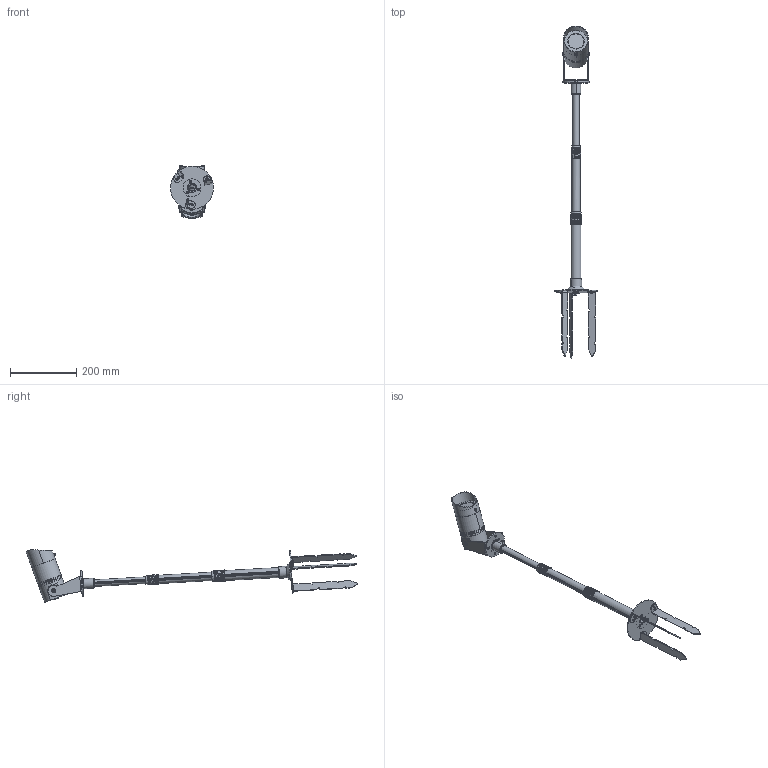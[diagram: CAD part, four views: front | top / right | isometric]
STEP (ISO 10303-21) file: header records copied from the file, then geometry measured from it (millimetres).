
FILE_DESCRIPTION((''),'2;1');
FILE_NAME('3AE__ASM_1_ASM','2025-08-01T',('C028'),(''),'CREO PARAMETRIC BY PTC INC, 2014190','CREO PARAMETRIC BY PTC INC, 2014190','');
FILE_SCHEMA(('CONFIG_CONTROL_DESIGN'));
Products named in the file (50): B3AB_80__O______L_10_15_1; B3AB_80_________L_9_1_1; 1_9_1_1; ADMI116CD2A7R55F_1_9_1_1; ADMI116CD2A7R55F_20_9_1_1; ADMI116CD2A7R55F_ASM_9_ASM_1_AS_ASM; B67__ASM_10_ASM_1_ASM_1_ASM; B3AB_80__O_________B___N_9_1_1; B3AB_80__B___N_10_1_1; B3AB_80_M3____I_10_1_1; 80-XKM_ASM_9_ASM_1_ASM_1_ASM; 3AE-DY_3_2_1; 3AE-GDP_4_2_1; 3AD-FPM_4_1_1; _7E_ASM_9_ASM_1_1; 3AE-HOUGAI-0618_1_1; 3AE-CHIKUAI_1_1; SCREW-M12_1_18_2_1_1; XINGUIJIAO_14_2_1_1; GUIJIAOSAI-005_8_2_1_1; LUOMUZUJIAN_ASM_14_ASM_2_ASM_1__ASM; M14__ASM_2_ASM_1_ASM_1_ASM; 3AE-ZHIJIA-0731_1_1; DB-M6-8_1_1; 3AE-KDP_1_1; PCB_5_1; A24_7_1_1; 230407A_4_1; KUI-A_2_1; B3AB_80____A_____20_ASM_28_ASM__ASM; 3AE_ASM_6_ASM_1_ASM; 2023323AA_1_1_1; GUAN-4_2_1_1; GUAN-3_1_1_1; GUAN-2_1_1_1; PRODUCT_259840_3_1_1; _______-2_1_1_1; HU-5170_1_1_1; HU-5171_1_1_1; PRODUCT_202162_ASM_1_ASM_1_ASM__ASM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
Assembly tree (60 placements, depth 6):
  3AE__ASM_1_ASM
    3AE_ASM_6_ASM_1_ASM
      B3AB_80____A_____20_ASM_28_ASM__ASM
        B3AB_80__O______L_10_15_1
        B3AB_80_________L_9_1_1
        B67__ASM_10_ASM_1_ASM_1_ASM
          ADMI116CD2A7R55F_ASM_9_ASM_1_AS_ASM
            1_9_1_1
            ADMI116CD2A7R55F_1_9_1_1
            ADMI116CD2A7R55F_20_9_1_1
        80-XKM_ASM_9_ASM_1_ASM_1_ASM
          B3AB_80__O_________B___N_9_1_1
          B3AB_80__B___N_10_1_1
          B3AB_80_M3____I_10_1_1
        3AE-DY_3_2_1
        3AE-GDP_4_2_1
        3AD-FPM_4_1_1
        _7E_ASM_9_ASM_1_1
        3AE-HOUGAI-0618_1_1
        3AE-CHIKUAI_1_1  x2
        M14__ASM_2_ASM_1_ASM_1_ASM
          LUOMUZUJIAN_ASM_14_ASM_2_ASM_1__ASM
            SCREW-M12_1_18_2_1_1
            XINGUIJIAO_14_2_1_1
            GUIJIAOSAI-005_8_2_1_1
        3AE-ZHIJIA-0731_1_1
        DB-M6-8_1_1  x2
        3AE-KDP_1_1
        PCB_5_1
        A24_7_1_1
        230407A_4_1
        KUI-A_2_1
    DICHA_ASM-2021_2_27-5128_ASM__1_ASM
      2023323AA_1_1_1
      PRODUCT_202162_ASM_1_ASM_1_ASM__ASM
        GUAN-4_2_1_1
        GUAN-3_1_1_1
        GUAN-2_1_1_1
        PRODUCT_259840_3_1_1
        _______-2_1_1_1
        HU-5170_1_1_1
        HU-5171_1_1_1
      _20A_ASM_1_ASM_1_ASM
        XIN-DICHA_ASM_ASM_1_ASM_1_ASM_1_ASM
          XIN-DICHA_ASM_32_ASM_1_ASM_1_AS_ASM
            GUDINGBAN_33_1_1_1
            DICHAPIAN_32_1_1_1  x3
            M4LUOSI_32_1_1_1  x6
      PRODUCT_208422_1_1_1  x3
    ZJJ_2
Bounding box: 129.71 x 1001.08 x 158.29 mm (x, y, z)
Volume: 613051.4 mm3; surface area: 401200.4 mm2
Topology: 47 solids, 48 shells, 5131 faces, 16448 edges, 9777 vertices
Faces by surface type: sphere 1876, plane 1464, cylinder 740, extrusion 406, cone 318, bspline 181, torus 119, revolution 27
Entity records: 187503 total; most frequent: CARTESIAN_POINT 68237, ORIENTED_EDGE 27458, DIRECTION 21437, EDGE_CURVE 13729, VERTEX_POINT 9187, AXIS2_PLACEMENT_3D 8552, B_SPLINE_CURVE_WITH_KNOTS 6033, EDGE_LOOP 5078
